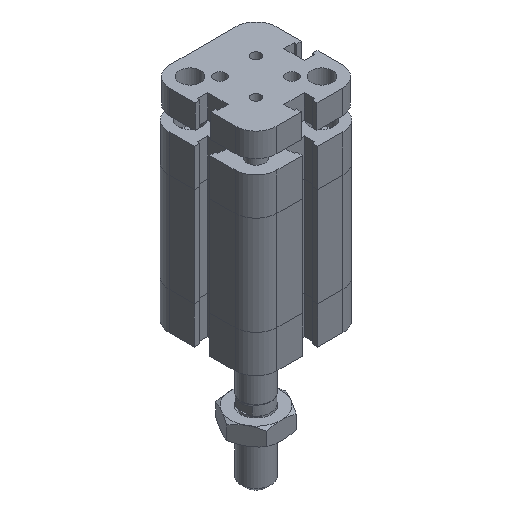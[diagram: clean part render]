
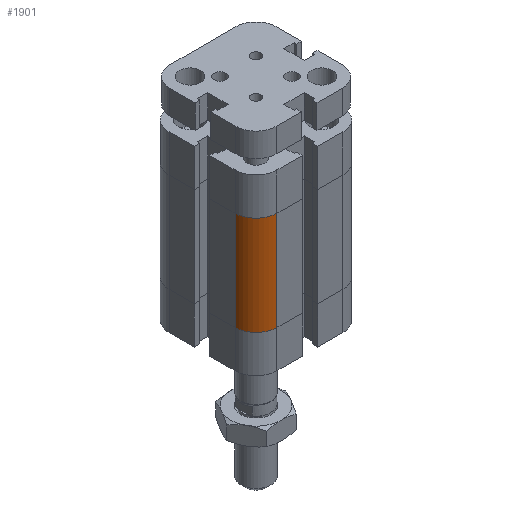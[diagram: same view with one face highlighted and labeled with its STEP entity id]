
A CAD part, isometric view. The second image highlights one B-rep face of the part: STEP entity #1901.
In plain terms, the highlighted cylindrical face has radius 7 mm (diameter 14 mm), a partial arc.
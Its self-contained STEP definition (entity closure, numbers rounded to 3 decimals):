
#1812=CARTESIAN_POINT('',(-18.,-11.0,12.5));
#1813=VERTEX_POINT('',#1812);
#1820=CARTESIAN_POINT('',(-18.,-11.0,45.5));
#1821=VERTEX_POINT('',#1820);
#1822=CARTESIAN_POINT('',(-18.,-11.0,12.5));
#1823=DIRECTION('',(0.0,0.0,1.0));
#1824=VECTOR('',#1823,33.);
#1825=LINE('',#1822,#1824);
#1826=EDGE_CURVE('',#1813,#1821,#1825,.T.);
#1869=CARTESIAN_POINT('',(-11.0,-11.0,0.0));
#1870=DIRECTION('',(0.0,0.0,1.0));
#1871=DIRECTION('',(1.0,0.0,0.0));
#1872=AXIS2_PLACEMENT_3D('',#1869,#1870,#1871);
#1873=CYLINDRICAL_SURFACE('',#1872,7.0);
#1874=CARTESIAN_POINT('',(-11.0,-18.,12.5));
#1875=VERTEX_POINT('',#1874);
#1876=CARTESIAN_POINT('',(-11.0,-11.0,12.5));
#1877=DIRECTION('',(0.0,0.0,1.0));
#1878=DIRECTION('',(1.0,0.0,0.0));
#1879=AXIS2_PLACEMENT_3D('',#1876,#1877,#1878);
#1880=CIRCLE('',#1879,7.0);
#1881=EDGE_CURVE('',#1813,#1875,#1880,.T.);
#1882=ORIENTED_EDGE('',*,*,#1881,.T.);
#1883=CARTESIAN_POINT('',(-11.0,-18.,45.5));
#1884=VERTEX_POINT('',#1883);
#1885=CARTESIAN_POINT('',(-11.0,-18.,12.5));
#1886=DIRECTION('',(0.0,0.0,1.0));
#1887=VECTOR('',#1886,33.);
#1888=LINE('',#1885,#1887);
#1889=EDGE_CURVE('',#1875,#1884,#1888,.T.);
#1890=ORIENTED_EDGE('',*,*,#1889,.T.);
#1891=CARTESIAN_POINT('',(-11.0,-11.0,45.5));
#1892=DIRECTION('',(0.0,0.0,1.0));
#1893=DIRECTION('',(1.0,0.0,0.0));
#1894=AXIS2_PLACEMENT_3D('',#1891,#1892,#1893);
#1895=CIRCLE('',#1894,7.0);
#1896=EDGE_CURVE('',#1821,#1884,#1895,.T.);
#1897=ORIENTED_EDGE('',*,*,#1896,.F.);
#1898=ORIENTED_EDGE('',*,*,#1826,.F.);
#1899=EDGE_LOOP('',(#1882,#1890,#1897,#1898));
#1900=FACE_OUTER_BOUND('',#1899,.T.);
#1901=ADVANCED_FACE('',(#1900),#1873,.T.);
